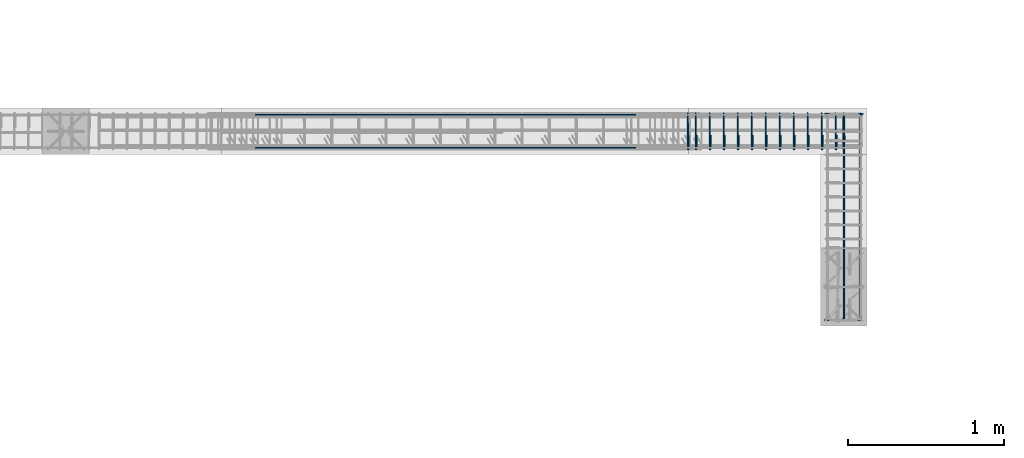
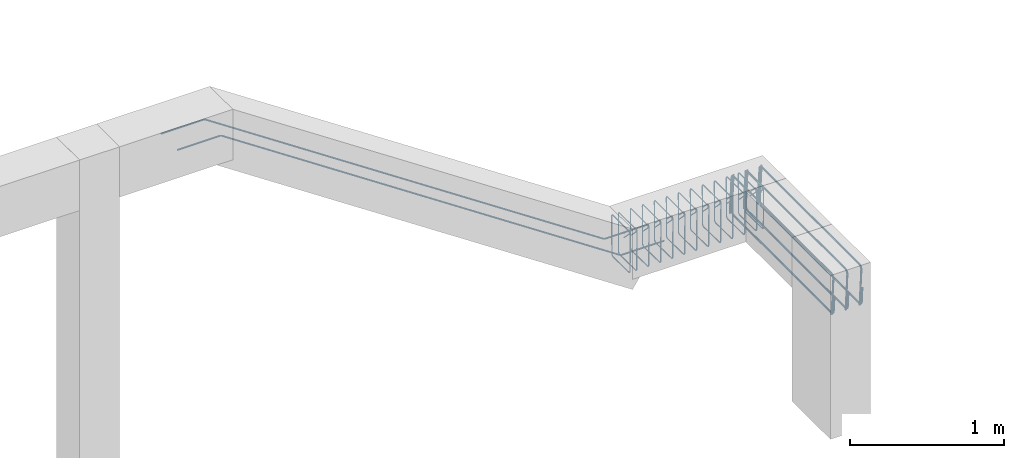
# One storey, part 16 of 24: 4 reinforcing bars.
"""IFC2X3 building model written with IfcOpenShell, lengths in metres."""

from ifc_helpers import new_model, entity, si_unit, direction, frame, origin, place, context, subcontext, project, spatial, shape, source, transform, mapped, element, save


model = new_model("IFC2X3")

# Units and contexts
model_context = context("Model", 3, precision=0.0, world=origin(), true_north=direction((0.0, 1.0)))
plan_context = context("Plan", 3, precision=0.0, world=origin(), true_north=direction((0.0, 1.0)))
body_context = subcontext(model_context, "Body", "Model", "MODEL_VIEW", scale=1.0)
ifc_project = project(units=[si_unit("LENGTHUNIT", "METRE"), si_unit("AREAUNIT", "SQUARE_METRE"), si_unit("VOLUMEUNIT", "CUBIC_METRE"), si_unit("PLANEANGLEUNIT", "RADIAN"), si_unit("THERMODYNAMICTEMPERATUREUNIT", "DEGREE_CELSIUS"), si_unit("FORCEUNIT", "NEWTON"), si_unit("MASSUNIT", "GRAM", prefix="KILO")], contexts=[model_context, plan_context])

# Site, building, storey
placement = place(None, origin())
site = spatial("IfcSite", under=ifc_project, at=placement, Name="Default Site", CompositionType="ELEMENT")
building = spatial("IfcBuilding", under=site, at=placement, Name="Default Building", CompositionType="ELEMENT")
storey_placement = place(placement, frame((0.0, 0.0, 3.3), z_axis=(1.0, 0.0, 0.0), x_axis=(0.0, 0.0, 1.0)))
storey = spatial("IfcBuildingStorey", under=building, at=storey_placement, Name="Piano 2", CompositionType="ELEMENT", Elevation=3.3)

# Reinforcing bars
shared_shape_1 = source(origin(), body_context, None, "AdvancedSweptSolid", [
    entity("IfcSweptDiskSolid", entity("IfcCompositeCurve", [entity("IfcCompositeCurveSegment", "CONTINUOUS", True, entity("IfcPolyline", [entity("IfcCartesianPoint", [0.0, 0.0, 0.0]), entity("IfcCartesianPoint", [0.0, -0.066019, 0.066019]), entity("IfcCartesianPoint", [0.000256, -0.070711, 0.07734]), entity("IfcCartesianPoint", [0.000483, -0.069135, 0.083218]), entity("IfcCartesianPoint", [0.000652, -0.064829, 0.087521]), entity("IfcCartesianPoint", [0.000716, -0.058947, 0.089095]), entity("IfcCartesianPoint", [0.000831, 0.145289, 0.089095]), entity("IfcCartesianPoint", [0.000846, 0.153289, 0.086952]), entity("IfcCartesianPoint", [0.000878, 0.159146, 0.081096]), entity("IfcCartesianPoint", [0.000919, 0.161289, 0.073096]), entity("IfcCartesianPoint", [0.002406, 0.161289, -0.226906]), entity("IfcCartesianPoint", [0.002467, 0.159146, -0.234905]), entity("IfcCartesianPoint", [0.002556, 0.15329, -0.240761]), entity("IfcCartesianPoint", [0.002647, 0.145291, -0.242905]), entity("IfcCartesianPoint", [0.004677, -0.054712, -0.242905]), entity("IfcCartesianPoint", [0.004769, -0.062712, -0.240761]), entity("IfcCartesianPoint", [0.004858, -0.068567, -0.234905]), entity("IfcCartesianPoint", [0.004919, -0.070711, -0.226906]), entity("IfcCartesianPoint", [0.006406, -0.070711, 0.073106]), entity("IfcCartesianPoint", [0.006717, -0.068586, 0.081101]), entity("IfcCartesianPoint", [0.00749, -0.062781, 0.086954]), entity("IfcCartesianPoint", [0.008516, -0.05485, 0.089095]), entity("IfcCartesianPoint", [0.008756, -0.052514, 0.088627]), entity("IfcCartesianPoint", [0.008843, -0.050526, 0.087296]), entity("IfcCartesianPoint", [0.00897, 0.018385, 0.018385])]))], False), 0.004, 0.0, 0.0),
])
shared_shape_2 = source(origin(), body_context, None, "AdvancedSweptSolid", [
    entity("IfcSweptDiskSolid", entity("IfcCompositeCurve", [entity("IfcCompositeCurveSegment", "CONTINUOUS", True, entity("IfcPolyline", [entity("IfcCartesianPoint", [0.0, 0.0, 0.0]), entity("IfcCartesianPoint", [0.0, -0.066019, 0.066019]), entity("IfcCartesianPoint", [0.000256, -0.070711, 0.07734]), entity("IfcCartesianPoint", [0.000483, -0.069135, 0.083218]), entity("IfcCartesianPoint", [0.000652, -0.064829, 0.087521]), entity("IfcCartesianPoint", [0.000716, -0.058947, 0.089095]), entity("IfcCartesianPoint", [0.000831, 0.145289, 0.089095]), entity("IfcCartesianPoint", [0.000846, 0.153289, 0.086952]), entity("IfcCartesianPoint", [0.000878, 0.159146, 0.081096]), entity("IfcCartesianPoint", [0.000919, 0.161289, 0.073096]), entity("IfcCartesianPoint", [0.002406, 0.161289, -0.226906]), entity("IfcCartesianPoint", [0.002467, 0.159146, -0.234905]), entity("IfcCartesianPoint", [0.002556, 0.15329, -0.240761]), entity("IfcCartesianPoint", [0.002647, 0.145291, -0.242905]), entity("IfcCartesianPoint", [0.004677, -0.054712, -0.242905]), entity("IfcCartesianPoint", [0.004769, -0.062712, -0.240761]), entity("IfcCartesianPoint", [0.004858, -0.068567, -0.234905]), entity("IfcCartesianPoint", [0.004919, -0.070711, -0.226906]), entity("IfcCartesianPoint", [0.006406, -0.070711, 0.073106]), entity("IfcCartesianPoint", [0.006717, -0.068586, 0.081101]), entity("IfcCartesianPoint", [0.00749, -0.062781, 0.086954]), entity("IfcCartesianPoint", [0.008516, -0.05485, 0.089095]), entity("IfcCartesianPoint", [0.008756, -0.052514, 0.088627]), entity("IfcCartesianPoint", [0.008843, -0.050526, 0.087296]), entity("IfcCartesianPoint", [0.00897, 0.018385, 0.018385])]))], False), 0.004, 0.0, 0.0),
])
shared_shape_3 = source(origin(), body_context, None, "AdvancedSweptSolid", [
    entity("IfcSweptDiskSolid", entity("IfcCompositeCurve", [entity("IfcCompositeCurveSegment", "CONTINUOUS", True, entity("IfcPolyline", [entity("IfcCartesianPoint", [0.0, 0.0, 0.0]), entity("IfcCartesianPoint", [0.0, -0.066019, 0.066019]), entity("IfcCartesianPoint", [0.000256, -0.070711, 0.07734]), entity("IfcCartesianPoint", [0.000483, -0.069135, 0.083218]), entity("IfcCartesianPoint", [0.000652, -0.064829, 0.087521]), entity("IfcCartesianPoint", [0.000716, -0.058947, 0.089095]), entity("IfcCartesianPoint", [0.000831, 0.145289, 0.089095]), entity("IfcCartesianPoint", [0.000846, 0.153289, 0.086952]), entity("IfcCartesianPoint", [0.000878, 0.159146, 0.081096]), entity("IfcCartesianPoint", [0.000919, 0.161289, 0.073096]), entity("IfcCartesianPoint", [0.002406, 0.161289, -0.226906]), entity("IfcCartesianPoint", [0.002467, 0.159146, -0.234905]), entity("IfcCartesianPoint", [0.002556, 0.15329, -0.240761]), entity("IfcCartesianPoint", [0.002647, 0.145291, -0.242905]), entity("IfcCartesianPoint", [0.004677, -0.054712, -0.242905]), entity("IfcCartesianPoint", [0.004769, -0.062712, -0.240761]), entity("IfcCartesianPoint", [0.004858, -0.068567, -0.234905]), entity("IfcCartesianPoint", [0.004919, -0.070711, -0.226906]), entity("IfcCartesianPoint", [0.006406, -0.070711, 0.073106]), entity("IfcCartesianPoint", [0.006717, -0.068586, 0.081101]), entity("IfcCartesianPoint", [0.00749, -0.062781, 0.086954]), entity("IfcCartesianPoint", [0.008516, -0.05485, 0.089095]), entity("IfcCartesianPoint", [0.008756, -0.052514, 0.088627]), entity("IfcCartesianPoint", [0.008843, -0.050526, 0.087296]), entity("IfcCartesianPoint", [0.00897, 0.018385, 0.018385])]))], False), 0.004, 0.0, 0.0),
])
shared_shape_4 = source(origin(), body_context, None, "AdvancedSweptSolid", [
    entity("IfcSweptDiskSolid", entity("IfcCompositeCurve", [entity("IfcCompositeCurveSegment", "CONTINUOUS", True, entity("IfcPolyline", [entity("IfcCartesianPoint", [0.0, 0.0, 0.0]), entity("IfcCartesianPoint", [0.0, -0.066019, 0.066019]), entity("IfcCartesianPoint", [0.000256, -0.070711, 0.07734]), entity("IfcCartesianPoint", [0.000483, -0.069135, 0.083218]), entity("IfcCartesianPoint", [0.000652, -0.064829, 0.087521]), entity("IfcCartesianPoint", [0.000716, -0.058947, 0.089095]), entity("IfcCartesianPoint", [0.000831, 0.145289, 0.089095]), entity("IfcCartesianPoint", [0.000846, 0.153289, 0.086952]), entity("IfcCartesianPoint", [0.000878, 0.159146, 0.081096]), entity("IfcCartesianPoint", [0.000919, 0.161289, 0.073096]), entity("IfcCartesianPoint", [0.002406, 0.161289, -0.226906]), entity("IfcCartesianPoint", [0.002467, 0.159146, -0.234905]), entity("IfcCartesianPoint", [0.002556, 0.15329, -0.240761]), entity("IfcCartesianPoint", [0.002647, 0.145291, -0.242905]), entity("IfcCartesianPoint", [0.004677, -0.054712, -0.242905]), entity("IfcCartesianPoint", [0.004769, -0.062712, -0.240761]), entity("IfcCartesianPoint", [0.004858, -0.068567, -0.234905]), entity("IfcCartesianPoint", [0.004919, -0.070711, -0.226906]), entity("IfcCartesianPoint", [0.006406, -0.070711, 0.073106]), entity("IfcCartesianPoint", [0.006717, -0.068586, 0.081101]), entity("IfcCartesianPoint", [0.00749, -0.062781, 0.086954]), entity("IfcCartesianPoint", [0.008516, -0.05485, 0.089095]), entity("IfcCartesianPoint", [0.008756, -0.052514, 0.088627]), entity("IfcCartesianPoint", [0.008843, -0.050526, 0.087296]), entity("IfcCartesianPoint", [0.00897, 0.018385, 0.018385])]))], False), 0.004, 0.0, 0.0),
])
shared_shape_5 = source(origin(), body_context, None, "AdvancedSweptSolid", [
    entity("IfcSweptDiskSolid", entity("IfcCompositeCurve", [entity("IfcCompositeCurveSegment", "CONTINUOUS", True, entity("IfcPolyline", [entity("IfcCartesianPoint", [0.0, 0.0, 0.0]), entity("IfcCartesianPoint", [0.0, -0.066019, 0.066019]), entity("IfcCartesianPoint", [0.000256, -0.070711, 0.07734]), entity("IfcCartesianPoint", [0.000483, -0.069135, 0.083218]), entity("IfcCartesianPoint", [0.000652, -0.064829, 0.087521]), entity("IfcCartesianPoint", [0.000716, -0.058947, 0.089095]), entity("IfcCartesianPoint", [0.000831, 0.145289, 0.089095]), entity("IfcCartesianPoint", [0.000846, 0.153289, 0.086952]), entity("IfcCartesianPoint", [0.000878, 0.159146, 0.081096]), entity("IfcCartesianPoint", [0.000919, 0.161289, 0.073096]), entity("IfcCartesianPoint", [0.002406, 0.161289, -0.226906]), entity("IfcCartesianPoint", [0.002467, 0.159146, -0.234905]), entity("IfcCartesianPoint", [0.002556, 0.15329, -0.240761]), entity("IfcCartesianPoint", [0.002647, 0.145291, -0.242905]), entity("IfcCartesianPoint", [0.004677, -0.054712, -0.242905]), entity("IfcCartesianPoint", [0.004769, -0.062712, -0.240761]), entity("IfcCartesianPoint", [0.004858, -0.068567, -0.234905]), entity("IfcCartesianPoint", [0.004919, -0.070711, -0.226906]), entity("IfcCartesianPoint", [0.006406, -0.070711, 0.073106]), entity("IfcCartesianPoint", [0.006717, -0.068586, 0.081101]), entity("IfcCartesianPoint", [0.00749, -0.062781, 0.086954]), entity("IfcCartesianPoint", [0.008516, -0.05485, 0.089095]), entity("IfcCartesianPoint", [0.008756, -0.052514, 0.088627]), entity("IfcCartesianPoint", [0.008843, -0.050526, 0.087296]), entity("IfcCartesianPoint", [0.00897, 0.018385, 0.018385])]))], False), 0.004, 0.0, 0.0),
])
shared_shape_6 = source(origin(), body_context, None, "AdvancedSweptSolid", [
    entity("IfcSweptDiskSolid", entity("IfcCompositeCurve", [entity("IfcCompositeCurveSegment", "CONTINUOUS", True, entity("IfcPolyline", [entity("IfcCartesianPoint", [0.0, 0.0, 0.0]), entity("IfcCartesianPoint", [0.0, -0.066019, 0.066019]), entity("IfcCartesianPoint", [0.000256, -0.070711, 0.07734]), entity("IfcCartesianPoint", [0.000483, -0.069135, 0.083218]), entity("IfcCartesianPoint", [0.000652, -0.064829, 0.087521]), entity("IfcCartesianPoint", [0.000716, -0.058947, 0.089095]), entity("IfcCartesianPoint", [0.000831, 0.145289, 0.089095]), entity("IfcCartesianPoint", [0.000846, 0.153289, 0.086952]), entity("IfcCartesianPoint", [0.000878, 0.159146, 0.081096]), entity("IfcCartesianPoint", [0.000919, 0.161289, 0.073096]), entity("IfcCartesianPoint", [0.002406, 0.161289, -0.226906]), entity("IfcCartesianPoint", [0.002467, 0.159146, -0.234905]), entity("IfcCartesianPoint", [0.002556, 0.15329, -0.240761]), entity("IfcCartesianPoint", [0.002647, 0.145291, -0.242905]), entity("IfcCartesianPoint", [0.004677, -0.054712, -0.242905]), entity("IfcCartesianPoint", [0.004769, -0.062712, -0.240761]), entity("IfcCartesianPoint", [0.004858, -0.068567, -0.234905]), entity("IfcCartesianPoint", [0.004919, -0.070711, -0.226906]), entity("IfcCartesianPoint", [0.006406, -0.070711, 0.073106]), entity("IfcCartesianPoint", [0.006717, -0.068586, 0.081101]), entity("IfcCartesianPoint", [0.00749, -0.062781, 0.086954]), entity("IfcCartesianPoint", [0.008516, -0.05485, 0.089095]), entity("IfcCartesianPoint", [0.008756, -0.052514, 0.088627]), entity("IfcCartesianPoint", [0.008843, -0.050526, 0.087296]), entity("IfcCartesianPoint", [0.00897, 0.018385, 0.018385])]))], False), 0.004, 0.0, 0.0),
])
shared_shape_7 = source(origin(), body_context, None, "AdvancedSweptSolid", [
    entity("IfcSweptDiskSolid", entity("IfcCompositeCurve", [entity("IfcCompositeCurveSegment", "CONTINUOUS", True, entity("IfcPolyline", [entity("IfcCartesianPoint", [0.0, 0.0, 0.0]), entity("IfcCartesianPoint", [0.0, -0.066019, 0.066019]), entity("IfcCartesianPoint", [0.000256, -0.070711, 0.07734]), entity("IfcCartesianPoint", [0.000483, -0.069135, 0.083218]), entity("IfcCartesianPoint", [0.000652, -0.064829, 0.087521]), entity("IfcCartesianPoint", [0.000716, -0.058947, 0.089095]), entity("IfcCartesianPoint", [0.000831, 0.145289, 0.089095]), entity("IfcCartesianPoint", [0.000846, 0.153289, 0.086952]), entity("IfcCartesianPoint", [0.000878, 0.159146, 0.081096]), entity("IfcCartesianPoint", [0.000919, 0.161289, 0.073096]), entity("IfcCartesianPoint", [0.002406, 0.161289, -0.226906]), entity("IfcCartesianPoint", [0.002467, 0.159146, -0.234905]), entity("IfcCartesianPoint", [0.002556, 0.15329, -0.240761]), entity("IfcCartesianPoint", [0.002647, 0.145291, -0.242905]), entity("IfcCartesianPoint", [0.004677, -0.054712, -0.242905]), entity("IfcCartesianPoint", [0.004769, -0.062712, -0.240761]), entity("IfcCartesianPoint", [0.004858, -0.068567, -0.234905]), entity("IfcCartesianPoint", [0.004919, -0.070711, -0.226906]), entity("IfcCartesianPoint", [0.006406, -0.070711, 0.073106]), entity("IfcCartesianPoint", [0.006717, -0.068586, 0.081101]), entity("IfcCartesianPoint", [0.00749, -0.062781, 0.086954]), entity("IfcCartesianPoint", [0.008516, -0.05485, 0.089095]), entity("IfcCartesianPoint", [0.008756, -0.052514, 0.088627]), entity("IfcCartesianPoint", [0.008843, -0.050526, 0.087296]), entity("IfcCartesianPoint", [0.00897, 0.018385, 0.018385])]))], False), 0.004, 0.0, 0.0),
])
shared_shape_8 = source(origin(), body_context, None, "AdvancedSweptSolid", [
    entity("IfcSweptDiskSolid", entity("IfcCompositeCurve", [entity("IfcCompositeCurveSegment", "CONTINUOUS", True, entity("IfcPolyline", [entity("IfcCartesianPoint", [0.0, 0.0, 0.0]), entity("IfcCartesianPoint", [0.0, -0.066019, 0.066019]), entity("IfcCartesianPoint", [0.000256, -0.070711, 0.07734]), entity("IfcCartesianPoint", [0.000483, -0.069135, 0.083218]), entity("IfcCartesianPoint", [0.000652, -0.064829, 0.087521]), entity("IfcCartesianPoint", [0.000716, -0.058947, 0.089095]), entity("IfcCartesianPoint", [0.000831, 0.145289, 0.089095]), entity("IfcCartesianPoint", [0.000846, 0.153289, 0.086952]), entity("IfcCartesianPoint", [0.000878, 0.159146, 0.081096]), entity("IfcCartesianPoint", [0.000919, 0.161289, 0.073096]), entity("IfcCartesianPoint", [0.002406, 0.161289, -0.226906]), entity("IfcCartesianPoint", [0.002467, 0.159146, -0.234905]), entity("IfcCartesianPoint", [0.002556, 0.15329, -0.240761]), entity("IfcCartesianPoint", [0.002647, 0.145291, -0.242905]), entity("IfcCartesianPoint", [0.004677, -0.054712, -0.242905]), entity("IfcCartesianPoint", [0.004769, -0.062712, -0.240761]), entity("IfcCartesianPoint", [0.004858, -0.068567, -0.234905]), entity("IfcCartesianPoint", [0.004919, -0.070711, -0.226906]), entity("IfcCartesianPoint", [0.006406, -0.070711, 0.073106]), entity("IfcCartesianPoint", [0.006717, -0.068586, 0.081101]), entity("IfcCartesianPoint", [0.00749, -0.062781, 0.086954]), entity("IfcCartesianPoint", [0.008516, -0.05485, 0.089095]), entity("IfcCartesianPoint", [0.008756, -0.052514, 0.088627]), entity("IfcCartesianPoint", [0.008843, -0.050526, 0.087296]), entity("IfcCartesianPoint", [0.00897, 0.018385, 0.018385])]))], False), 0.004, 0.0, 0.0),
])
shared_shape_9 = source(origin(), body_context, None, "AdvancedSweptSolid", [
    entity("IfcSweptDiskSolid", entity("IfcCompositeCurve", [entity("IfcCompositeCurveSegment", "CONTINUOUS", True, entity("IfcPolyline", [entity("IfcCartesianPoint", [0.0, 0.0, 0.0]), entity("IfcCartesianPoint", [0.0, -0.066019, 0.066019]), entity("IfcCartesianPoint", [0.000256, -0.070711, 0.07734]), entity("IfcCartesianPoint", [0.000483, -0.069135, 0.083218]), entity("IfcCartesianPoint", [0.000652, -0.064829, 0.087521]), entity("IfcCartesianPoint", [0.000716, -0.058947, 0.089095]), entity("IfcCartesianPoint", [0.000831, 0.145289, 0.089095]), entity("IfcCartesianPoint", [0.000846, 0.153289, 0.086952]), entity("IfcCartesianPoint", [0.000878, 0.159146, 0.081096]), entity("IfcCartesianPoint", [0.000919, 0.161289, 0.073096]), entity("IfcCartesianPoint", [0.002406, 0.161289, -0.226906]), entity("IfcCartesianPoint", [0.002467, 0.159146, -0.234905]), entity("IfcCartesianPoint", [0.002556, 0.15329, -0.240761]), entity("IfcCartesianPoint", [0.002647, 0.145291, -0.242905]), entity("IfcCartesianPoint", [0.004677, -0.054712, -0.242905]), entity("IfcCartesianPoint", [0.004769, -0.062712, -0.240761]), entity("IfcCartesianPoint", [0.004858, -0.068567, -0.234905]), entity("IfcCartesianPoint", [0.004919, -0.070711, -0.226906]), entity("IfcCartesianPoint", [0.006406, -0.070711, 0.073106]), entity("IfcCartesianPoint", [0.006717, -0.068586, 0.081101]), entity("IfcCartesianPoint", [0.00749, -0.062781, 0.086954]), entity("IfcCartesianPoint", [0.008516, -0.05485, 0.089095]), entity("IfcCartesianPoint", [0.008756, -0.052514, 0.088627]), entity("IfcCartesianPoint", [0.008843, -0.050526, 0.087296]), entity("IfcCartesianPoint", [0.00897, 0.018385, 0.018385])]))], False), 0.004, 0.0, 0.0),
])
shared_shape_10 = source(origin(), body_context, None, "AdvancedSweptSolid", [
    entity("IfcSweptDiskSolid", entity("IfcCompositeCurve", [entity("IfcCompositeCurveSegment", "CONTINUOUS", True, entity("IfcPolyline", [entity("IfcCartesianPoint", [0.0, 0.0, 0.0]), entity("IfcCartesianPoint", [0.0, -0.066019, 0.066019]), entity("IfcCartesianPoint", [0.000256, -0.070711, 0.07734]), entity("IfcCartesianPoint", [0.000483, -0.069135, 0.083218]), entity("IfcCartesianPoint", [0.000652, -0.064829, 0.087521]), entity("IfcCartesianPoint", [0.000716, -0.058947, 0.089095]), entity("IfcCartesianPoint", [0.000831, 0.145289, 0.089095]), entity("IfcCartesianPoint", [0.000846, 0.153289, 0.086952]), entity("IfcCartesianPoint", [0.000878, 0.159146, 0.081096]), entity("IfcCartesianPoint", [0.000919, 0.161289, 0.073096]), entity("IfcCartesianPoint", [0.002406, 0.161289, -0.226906]), entity("IfcCartesianPoint", [0.002467, 0.159146, -0.234905]), entity("IfcCartesianPoint", [0.002556, 0.15329, -0.240761]), entity("IfcCartesianPoint", [0.002647, 0.145291, -0.242905]), entity("IfcCartesianPoint", [0.004677, -0.054712, -0.242905]), entity("IfcCartesianPoint", [0.004769, -0.062712, -0.240761]), entity("IfcCartesianPoint", [0.004858, -0.068567, -0.234905]), entity("IfcCartesianPoint", [0.004919, -0.070711, -0.226906]), entity("IfcCartesianPoint", [0.006406, -0.070711, 0.073106]), entity("IfcCartesianPoint", [0.006717, -0.068586, 0.081101]), entity("IfcCartesianPoint", [0.00749, -0.062781, 0.086954]), entity("IfcCartesianPoint", [0.008516, -0.05485, 0.089095]), entity("IfcCartesianPoint", [0.008756, -0.052514, 0.088627]), entity("IfcCartesianPoint", [0.008843, -0.050526, 0.087296]), entity("IfcCartesianPoint", [0.00897, 0.018385, 0.018385])]))], False), 0.004, 0.0, 0.0),
])
shared_shape_11 = source(origin(), body_context, None, "AdvancedSweptSolid", [
    entity("IfcSweptDiskSolid", entity("IfcCompositeCurve", [entity("IfcCompositeCurveSegment", "CONTINUOUS", True, entity("IfcPolyline", [entity("IfcCartesianPoint", [0.0, 0.0, 0.0]), entity("IfcCartesianPoint", [0.0, -0.066019, 0.066019]), entity("IfcCartesianPoint", [0.000256, -0.070711, 0.07734]), entity("IfcCartesianPoint", [0.000483, -0.069135, 0.083218]), entity("IfcCartesianPoint", [0.000652, -0.064829, 0.087521]), entity("IfcCartesianPoint", [0.000716, -0.058947, 0.089095]), entity("IfcCartesianPoint", [0.000831, 0.145289, 0.089095]), entity("IfcCartesianPoint", [0.000846, 0.153289, 0.086952]), entity("IfcCartesianPoint", [0.000878, 0.159146, 0.081096]), entity("IfcCartesianPoint", [0.000919, 0.161289, 0.073096]), entity("IfcCartesianPoint", [0.002406, 0.161289, -0.226906]), entity("IfcCartesianPoint", [0.002467, 0.159146, -0.234905]), entity("IfcCartesianPoint", [0.002556, 0.15329, -0.240761]), entity("IfcCartesianPoint", [0.002647, 0.145291, -0.242905]), entity("IfcCartesianPoint", [0.004677, -0.054712, -0.242905]), entity("IfcCartesianPoint", [0.004769, -0.062712, -0.240761]), entity("IfcCartesianPoint", [0.004858, -0.068567, -0.234905]), entity("IfcCartesianPoint", [0.004919, -0.070711, -0.226906]), entity("IfcCartesianPoint", [0.006406, -0.070711, 0.073106]), entity("IfcCartesianPoint", [0.006717, -0.068586, 0.081101]), entity("IfcCartesianPoint", [0.00749, -0.062781, 0.086954]), entity("IfcCartesianPoint", [0.008516, -0.05485, 0.089095]), entity("IfcCartesianPoint", [0.008756, -0.052514, 0.088627]), entity("IfcCartesianPoint", [0.008843, -0.050526, 0.087296]), entity("IfcCartesianPoint", [0.00897, 0.018385, 0.018385])]))], False), 0.004, 0.0, 0.0),
])
shared_shape_12 = source(origin(), body_context, None, "AdvancedSweptSolid", [
    entity("IfcSweptDiskSolid", entity("IfcCompositeCurve", [entity("IfcCompositeCurveSegment", "CONTINUOUS", True, entity("IfcPolyline", [entity("IfcCartesianPoint", [0.0, 0.0, 0.0]), entity("IfcCartesianPoint", [0.0, -0.066019, 0.066019]), entity("IfcCartesianPoint", [0.000256, -0.070711, 0.07734]), entity("IfcCartesianPoint", [0.000483, -0.069135, 0.083218]), entity("IfcCartesianPoint", [0.000652, -0.064829, 0.087521]), entity("IfcCartesianPoint", [0.000716, -0.058947, 0.089095]), entity("IfcCartesianPoint", [0.000831, 0.145289, 0.089095]), entity("IfcCartesianPoint", [0.000846, 0.153289, 0.086952]), entity("IfcCartesianPoint", [0.000878, 0.159146, 0.081096]), entity("IfcCartesianPoint", [0.000919, 0.161289, 0.073096]), entity("IfcCartesianPoint", [0.002406, 0.161289, -0.226906]), entity("IfcCartesianPoint", [0.002467, 0.159146, -0.234905]), entity("IfcCartesianPoint", [0.002556, 0.15329, -0.240761]), entity("IfcCartesianPoint", [0.002647, 0.145291, -0.242905]), entity("IfcCartesianPoint", [0.004677, -0.054712, -0.242905]), entity("IfcCartesianPoint", [0.004769, -0.062712, -0.240761]), entity("IfcCartesianPoint", [0.004858, -0.068567, -0.234905]), entity("IfcCartesianPoint", [0.004919, -0.070711, -0.226906]), entity("IfcCartesianPoint", [0.006406, -0.070711, 0.073106]), entity("IfcCartesianPoint", [0.006717, -0.068586, 0.081101]), entity("IfcCartesianPoint", [0.00749, -0.062781, 0.086954]), entity("IfcCartesianPoint", [0.008516, -0.05485, 0.089095]), entity("IfcCartesianPoint", [0.008756, -0.052514, 0.088627]), entity("IfcCartesianPoint", [0.008843, -0.050526, 0.087296]), entity("IfcCartesianPoint", [0.00897, 0.018385, 0.018385])]))], False), 0.004, 0.0, 0.0),
])
shared_shape_13 = source(origin(), body_context, None, "AdvancedSweptSolid", [
    entity("IfcSweptDiskSolid", entity("IfcCompositeCurve", [entity("IfcCompositeCurveSegment", "CONTINUOUS", True, entity("IfcPolyline", [entity("IfcCartesianPoint", [0.0, 0.0, 0.0]), entity("IfcCartesianPoint", [0.0, -0.066019, 0.066019]), entity("IfcCartesianPoint", [0.000256, -0.070711, 0.07734]), entity("IfcCartesianPoint", [0.000483, -0.069135, 0.083218]), entity("IfcCartesianPoint", [0.000652, -0.064829, 0.087521]), entity("IfcCartesianPoint", [0.000716, -0.058947, 0.089095]), entity("IfcCartesianPoint", [0.000831, 0.145289, 0.089095]), entity("IfcCartesianPoint", [0.000846, 0.153289, 0.086952]), entity("IfcCartesianPoint", [0.000878, 0.159146, 0.081096]), entity("IfcCartesianPoint", [0.000919, 0.161289, 0.073096]), entity("IfcCartesianPoint", [0.002406, 0.161289, -0.226906]), entity("IfcCartesianPoint", [0.002467, 0.159146, -0.234905]), entity("IfcCartesianPoint", [0.002556, 0.15329, -0.240761]), entity("IfcCartesianPoint", [0.002647, 0.145291, -0.242905]), entity("IfcCartesianPoint", [0.004677, -0.054712, -0.242905]), entity("IfcCartesianPoint", [0.004769, -0.062712, -0.240761]), entity("IfcCartesianPoint", [0.004858, -0.068567, -0.234905]), entity("IfcCartesianPoint", [0.004919, -0.070711, -0.226906]), entity("IfcCartesianPoint", [0.006406, -0.070711, 0.073106]), entity("IfcCartesianPoint", [0.006717, -0.068586, 0.081101]), entity("IfcCartesianPoint", [0.00749, -0.062781, 0.086954]), entity("IfcCartesianPoint", [0.008516, -0.05485, 0.089095]), entity("IfcCartesianPoint", [0.008756, -0.052514, 0.088627]), entity("IfcCartesianPoint", [0.008843, -0.050526, 0.087296]), entity("IfcCartesianPoint", [0.00897, 0.018385, 0.018385])]))], False), 0.004, 0.0, 0.0),
])
element("IfcReinforcingBar", 1, at=placement, inside=storey, Name="Arm Staffa; Trave:11 [Piano:2]", BarLength=17.287136, BarRole="SHEAR", BarSurface="TEXTURED", NominalDiameter=0.008, shapes=[
    shape(body_context, None, "MappedRepresentation", [mapped(shared_shape_1, transform((15.996, 4.954711, 1.169905))), mapped(shared_shape_2, transform((16.046, 4.954711, 1.169905))), mapped(shared_shape_3, transform((16.136, 4.954711, 1.169905))), mapped(shared_shape_4, transform((16.226, 4.954711, 1.169905))), mapped(shared_shape_5, transform((16.316, 4.954711, 1.169905))), mapped(shared_shape_6, transform((16.406, 4.954711, 1.169905))), mapped(shared_shape_7, transform((16.496, 4.954711, 1.169905))), mapped(shared_shape_8, transform((16.586, 4.954711, 1.169905))), mapped(shared_shape_9, transform((16.676, 4.954711, 1.169905))), mapped(shared_shape_10, transform((16.766, 4.954711, 1.169905))), mapped(shared_shape_11, transform((16.856, 4.954711, 1.169905))), mapped(shared_shape_12, transform((16.946, 4.954711, 1.169905))), mapped(shared_shape_13, transform((16.996, 4.954711, 1.169905)))]),
])
shared_shape_14 = source(origin(), body_context, None, "AdvancedSweptSolid", [
    entity("IfcSweptDiskSolid", entity("IfcCompositeCurve", [entity("IfcCompositeCurveSegment", "CONTINUOUS", True, entity("IfcPolyline", [entity("IfcCartesianPoint", [0.0, 0.0, 0.0]), entity("IfcCartesianPoint", [0.319642, 0.0, 0.0]), entity("IfcCartesianPoint", [0.332955, 0.0, -0.004031]), entity("IfcCartesianPoint", [3.320863, 0.0, -1.995969]), entity("IfcCartesianPoint", [3.334175, 0.0, -2.0]), entity("IfcCartesianPoint", [3.653818, 0.0, -2.0])]))], False), 0.006, 0.0, 0.0),
])
shared_shape_15 = source(origin(), body_context, None, "MappedRepresentation", [mapped(shared_shape_14, transform((12.608653, 5.106, 3.088176)))])
shared_shape_16 = source(origin(), body_context, None, "AdvancedSweptSolid", [
    entity("IfcSweptDiskSolid", entity("IfcCompositeCurve", [entity("IfcCompositeCurveSegment", "CONTINUOUS", True, entity("IfcPolyline", [entity("IfcCartesianPoint", [0.0, 0.0, 0.0]), entity("IfcCartesianPoint", [0.319642, 0.0, 0.0]), entity("IfcCartesianPoint", [0.332955, 0.0, -0.004031]), entity("IfcCartesianPoint", [3.320863, 0.0, -1.995969]), entity("IfcCartesianPoint", [3.334175, 0.0, -2.0]), entity("IfcCartesianPoint", [3.653818, 0.0, -2.0])]))], False), 0.006, 0.0, 0.0),
])
shared_shape_17 = source(origin(), body_context, None, "MappedRepresentation", [mapped(shared_shape_16, transform((12.608653, 4.894, 3.088176)))])
element("IfcReinforcingBar", 2, at=placement, inside=storey, Name="Arm Generica; Trave:10 [Piano:2]", BarLength=8.517491, BarRole="NOTDEFINED", BarSurface="TEXTURED", NominalDiameter=0.012, shapes=[
    shape(body_context, None, "MappedRepresentation", [mapped(shared_shape_15, transform((0.0, 0.0, 0.0))), mapped(shared_shape_17, transform((0.0, 0.0, 0.0)))]),
])
shared_shape_18 = source(origin(), body_context, None, "AdvancedSweptSolid", [
    entity("IfcSweptDiskSolid", entity("IfcCompositeCurve", [entity("IfcCompositeCurveSegment", "CONTINUOUS", True, entity("IfcPolyline", [entity("IfcCartesianPoint", [0.0, 0.0, 0.0]), entity("IfcCartesianPoint", [0.012466, 0.0, 0.276029]), entity("IfcCartesianPoint", [0.013097, 0.003751, 0.290014]), entity("IfcCartesianPoint", [0.01356, 0.014, 0.300253]), entity("IfcCartesianPoint", [0.013729, 0.028, 0.304]), entity("IfcCartesianPoint", [0.013729, 1.296, 0.304]), entity("IfcCartesianPoint", [0.01356, 1.31, 0.300253]), entity("IfcCartesianPoint", [0.013097, 1.320249, 0.290014]), entity("IfcCartesianPoint", [0.012466, 1.324, 0.276029]), entity("IfcCartesianPoint", [0.0, 1.324, 0.0])]))], False), 0.007, 0.0, 0.0),
])
shared_shape_19 = source(origin(), body_context, None, "MappedRepresentation", [mapped(shared_shape_18, transform((17.091271, 3.788, 0.958)))])
shared_shape_20 = source(origin(), body_context, None, "AdvancedSweptSolid", [
    entity("IfcSweptDiskSolid", entity("IfcCompositeCurve", [entity("IfcCompositeCurveSegment", "CONTINUOUS", True, entity("IfcPolyline", [entity("IfcCartesianPoint", [0.0, 0.0, 0.0]), entity("IfcCartesianPoint", [0.012466, 0.0, 0.276029]), entity("IfcCartesianPoint", [0.013097, 0.003751, 0.290014]), entity("IfcCartesianPoint", [0.01356, 0.014, 0.300253]), entity("IfcCartesianPoint", [0.013729, 0.028, 0.304]), entity("IfcCartesianPoint", [0.013729, 1.296, 0.304]), entity("IfcCartesianPoint", [0.01356, 1.31, 0.300253]), entity("IfcCartesianPoint", [0.013097, 1.320249, 0.290014]), entity("IfcCartesianPoint", [0.012466, 1.324, 0.276029]), entity("IfcCartesianPoint", [0.0, 1.324, 0.0])]))], False), 0.007, 0.0, 0.0),
])
shared_shape_21 = source(origin(), body_context, None, "MappedRepresentation", [mapped(shared_shape_20, transform((16.986271, 3.788, 0.958)))])
shared_shape_22 = source(origin(), body_context, None, "AdvancedSweptSolid", [
    entity("IfcSweptDiskSolid", entity("IfcCompositeCurve", [entity("IfcCompositeCurveSegment", "CONTINUOUS", True, entity("IfcPolyline", [entity("IfcCartesianPoint", [0.0, 0.0, 0.0]), entity("IfcCartesianPoint", [0.012466, 0.0, 0.276029]), entity("IfcCartesianPoint", [0.013097, 0.003751, 0.290014]), entity("IfcCartesianPoint", [0.01356, 0.014, 0.300253]), entity("IfcCartesianPoint", [0.013729, 0.028, 0.304]), entity("IfcCartesianPoint", [0.013729, 1.296, 0.304]), entity("IfcCartesianPoint", [0.01356, 1.31, 0.300253]), entity("IfcCartesianPoint", [0.013097, 1.320249, 0.290014]), entity("IfcCartesianPoint", [0.012466, 1.324, 0.276029]), entity("IfcCartesianPoint", [0.0, 1.324, 0.0])]))], False), 0.007, 0.0, 0.0),
])
shared_shape_23 = source(origin(), body_context, None, "MappedRepresentation", [mapped(shared_shape_22, transform((16.881271, 3.788, 0.958)))])
element("IfcReinforcingBar", 3, at=placement, inside=storey, Name="Arm Superiore; Trave:12 [Piano:2]", BarLength=5.772822, BarRole="MAIN", BarSurface="TEXTURED", NominalDiameter=0.014, shapes=[
    shape(body_context, None, "MappedRepresentation", [mapped(shared_shape_19, transform((0.0, 0.0, 0.0))), mapped(shared_shape_21, transform((0.0, 0.0, 0.0))), mapped(shared_shape_23, transform((0.0, 0.0, 0.0)))]),
])
shared_shape_24 = source(origin(), body_context, None, "AdvancedSweptSolid", [
    entity("IfcSweptDiskSolid", entity("IfcCompositeCurve", [entity("IfcCompositeCurveSegment", "CONTINUOUS", True, entity("IfcPolyline", [entity("IfcCartesianPoint", [0.0, 0.0, 0.0]), entity("IfcCartesianPoint", [-0.005059, 0.0, -0.112029]), entity("IfcCartesianPoint", [-0.005691, 0.003751, -0.126014]), entity("IfcCartesianPoint", [-0.006153, 0.014, -0.136253]), entity("IfcCartesianPoint", [-0.006323, 0.028, -0.14]), entity("IfcCartesianPoint", [-0.006323, 1.296, -0.14]), entity("IfcCartesianPoint", [-0.006153, 1.31, -0.136253]), entity("IfcCartesianPoint", [-0.005691, 1.320249, -0.126014]), entity("IfcCartesianPoint", [-0.005059, 1.324, -0.112029]), entity("IfcCartesianPoint", [0.007406, 1.324, 0.164])]))], False), 0.007, 0.0, 0.0),
])
shared_shape_25 = source(origin(), body_context, None, "MappedRepresentation", [mapped(shared_shape_24, transform((17.111323, 3.788, 1.092)))])
shared_shape_26 = source(origin(), body_context, None, "AdvancedSweptSolid", [
    entity("IfcSweptDiskSolid", entity("IfcCompositeCurve", [entity("IfcCompositeCurveSegment", "CONTINUOUS", True, entity("IfcPolyline", [entity("IfcCartesianPoint", [0.0, 0.0, 0.0]), entity("IfcCartesianPoint", [-0.005059, 0.0, -0.112029]), entity("IfcCartesianPoint", [-0.005691, 0.003751, -0.126014]), entity("IfcCartesianPoint", [-0.006153, 0.014, -0.136253]), entity("IfcCartesianPoint", [-0.006323, 0.028, -0.14]), entity("IfcCartesianPoint", [-0.006323, 1.296, -0.14]), entity("IfcCartesianPoint", [-0.006153, 1.31, -0.136253]), entity("IfcCartesianPoint", [-0.005691, 1.320249, -0.126014]), entity("IfcCartesianPoint", [-0.005059, 1.324, -0.112029]), entity("IfcCartesianPoint", [0.007406, 1.324, 0.164])]))], False), 0.007, 0.0, 0.0),
])
shared_shape_27 = source(origin(), body_context, None, "MappedRepresentation", [mapped(shared_shape_26, transform((17.006323, 3.788, 1.092)))])
shared_shape_28 = source(origin(), body_context, None, "AdvancedSweptSolid", [
    entity("IfcSweptDiskSolid", entity("IfcCompositeCurve", [entity("IfcCompositeCurveSegment", "CONTINUOUS", True, entity("IfcPolyline", [entity("IfcCartesianPoint", [0.0, 0.0, 0.0]), entity("IfcCartesianPoint", [-0.005059, 0.0, -0.112029]), entity("IfcCartesianPoint", [-0.005691, 0.003751, -0.126014]), entity("IfcCartesianPoint", [-0.006153, 0.014, -0.136253]), entity("IfcCartesianPoint", [-0.006323, 0.028, -0.14]), entity("IfcCartesianPoint", [-0.006323, 1.296, -0.14]), entity("IfcCartesianPoint", [-0.006153, 1.31, -0.136253]), entity("IfcCartesianPoint", [-0.005691, 1.320249, -0.126014]), entity("IfcCartesianPoint", [-0.005059, 1.324, -0.112029]), entity("IfcCartesianPoint", [0.007406, 1.324, 0.164])]))], False), 0.007, 0.0, 0.0),
])
shared_shape_29 = source(origin(), body_context, None, "MappedRepresentation", [mapped(shared_shape_28, transform((16.901323, 3.788, 1.092)))])
element("IfcReinforcingBar", 4, at=placement, inside=storey, Name="Arm Inferiore; Trave:12 [Piano:2]", BarLength=5.280321, BarRole="MAIN", BarSurface="TEXTURED", NominalDiameter=0.014, shapes=[
    shape(body_context, None, "MappedRepresentation", [mapped(shared_shape_25, transform((0.0, 0.0, 0.0))), mapped(shared_shape_27, transform((0.0, 0.0, 0.0))), mapped(shared_shape_29, transform((0.0, 0.0, 0.0)))]),
])

save(model, "model.ifc")
